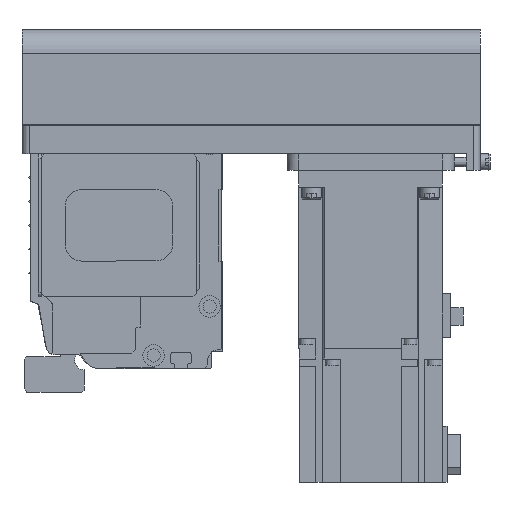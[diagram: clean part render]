
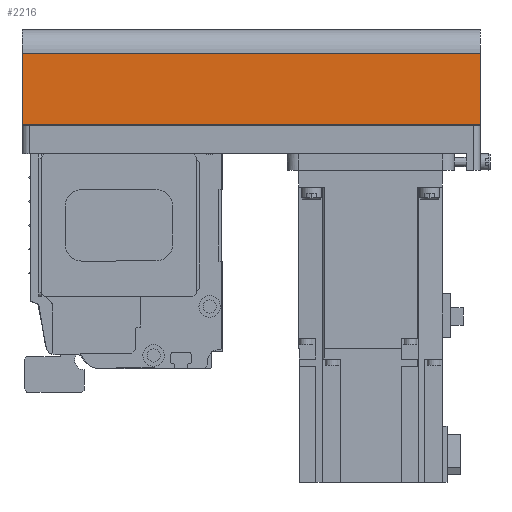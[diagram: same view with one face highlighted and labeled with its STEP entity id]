
A CAD part, left-side view. The second image highlights one B-rep face of the part: STEP entity #2216.
In plain terms, the highlighted planar face has unit normal (-1, 0, 0) as drawn and (0, -1, 0) by its records, which use the part's own axes.
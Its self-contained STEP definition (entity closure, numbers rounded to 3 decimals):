
#2216 = ADVANCED_FACE( '', ( #4614 ), #4615, .T. );
#4614 = FACE_OUTER_BOUND( '', #7078, .T. );
#4615 = PLANE( '', #7079 );
#7078 = EDGE_LOOP( '', ( #13056, #13057, #13058, #13059 ) );
#7079 = AXIS2_PLACEMENT_3D( '', #13060, #13061, #13062 );
#13056 = ORIENTED_EDGE( '', *, *, #15913, .F. );
#13057 = ORIENTED_EDGE( '', *, *, #16275, .F. );
#13058 = ORIENTED_EDGE( '', *, *, #14371, .T. );
#13059 = ORIENTED_EDGE( '', *, *, #16276, .T. );
#13060 = CARTESIAN_POINT( '', ( -192., -40., -12.1 ) );
#13061 = DIRECTION( '', ( 0., -1., 0. ) );
#13062 = DIRECTION( '', ( 0., 0., -1. ) );
#14371 = EDGE_CURVE( '', #17262, #17270, #17272, .T. );
#15913 = EDGE_CURVE( '', #19538, #19578, #19579, .T. );
#16275 = EDGE_CURVE( '', #17262, #19538, #19995, .T. );
#16276 = EDGE_CURVE( '', #17270, #19578, #19996, .T. );
#17262 = VERTEX_POINT( '', #21278 );
#17270 = VERTEX_POINT( '', #21289 );
#17272 = LINE( '', #21291, #21292 );
#19538 = VERTEX_POINT( '', #24327 );
#19578 = VERTEX_POINT( '', #24382 );
#19579 = LINE( '', #24383, #24384 );
#19995 = LINE( '', #24928, #24929 );
#19996 = LINE( '', #24930, #24931 );
#21278 = CARTESIAN_POINT( '', ( -192., -40., -12.1 ) );
#21289 = CARTESIAN_POINT( '', ( -192., -40., -42. ) );
#21291 = CARTESIAN_POINT( '', ( -192., -40., -12.1 ) );
#21292 = VECTOR( '', #25698, 1000. );
#24327 = CARTESIAN_POINT( '', ( 0., -40., -12.1 ) );
#24382 = CARTESIAN_POINT( '', ( 0., -40., -42. ) );
#24383 = CARTESIAN_POINT( '', ( 0., -40., -12.1 ) );
#24384 = VECTOR( '', #27551, 1000. );
#24928 = CARTESIAN_POINT( '', ( -192., -40., -12.1 ) );
#24929 = VECTOR( '', #27872, 1000. );
#24930 = CARTESIAN_POINT( '', ( -192., -40., -42. ) );
#24931 = VECTOR( '', #27873, 1000. );
#25698 = DIRECTION( '', ( 0., 0., -1. ) );
#27551 = DIRECTION( '', ( 0., 0., -1. ) );
#27872 = DIRECTION( '', ( 1., 0., 0. ) );
#27873 = DIRECTION( '', ( 1., 0., 0. ) );
